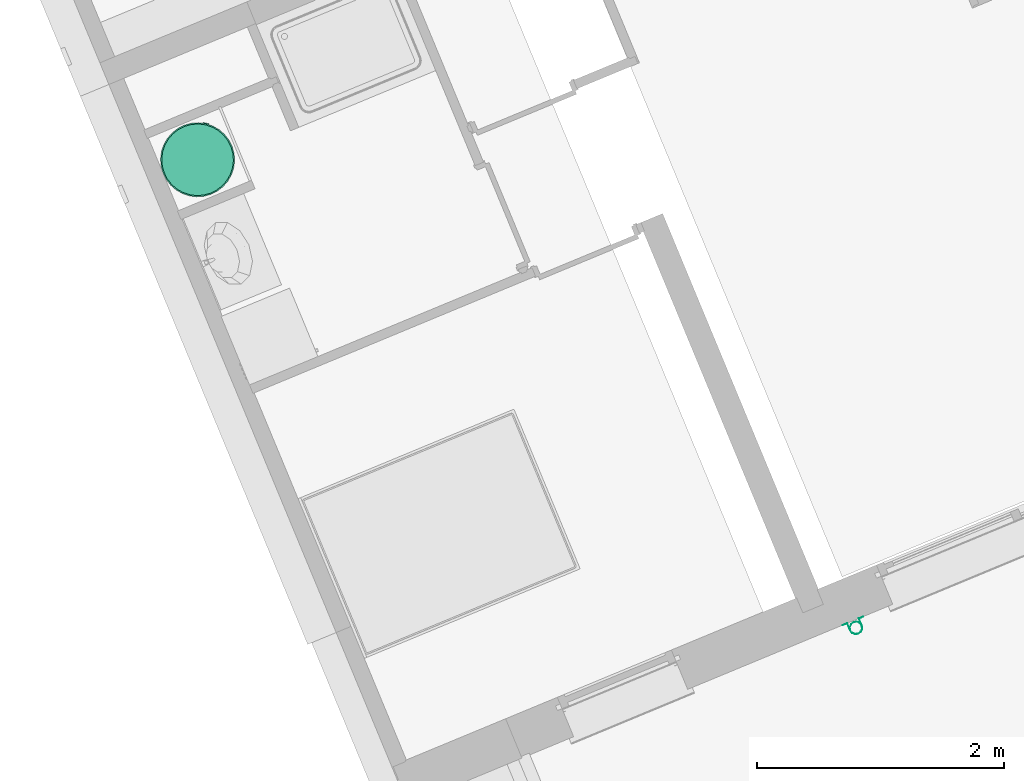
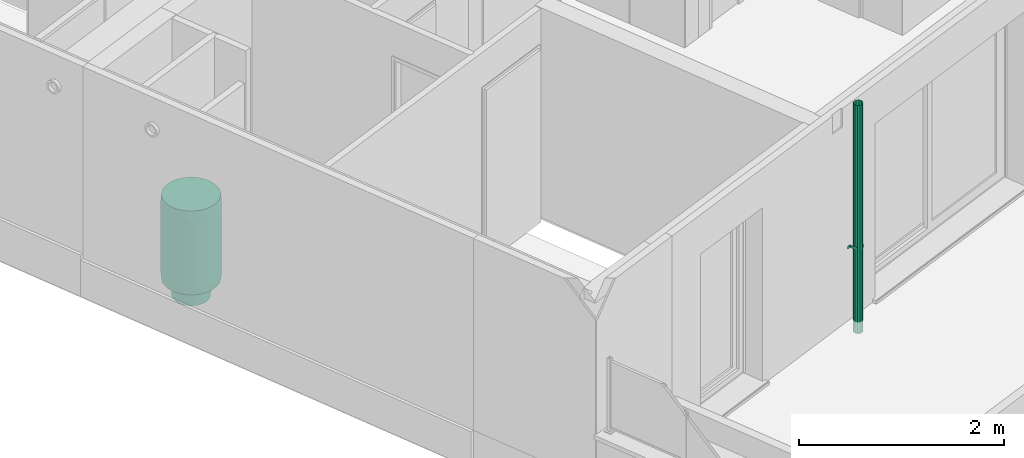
# One storey, part 81 of 119: 1 energy conversion device, 1 flow terminal.
"""IFC2X3 building model written with IfcOpenShell, lengths in metres."""

from ifc_helpers import new_model, entity, si_unit, converted_unit, derived_unit, money_unit, direction, frame, origin_with_axes, place, context, subcontext, project, spatial, open_shell, faceted_brep, surface_model, source, transform, mapped, type_object, element, save


model = new_model("IFC2X3")

# Units and contexts
model_context = context("Model", 3, precision=1e-05, world=origin_with_axes(), true_north=direction((0.0, 1.0)))
body_context = subcontext(model_context, "Body", "Model", "MODEL_VIEW")
ifc_project = project(units=[si_unit("LENGTHUNIT", "METRE"), si_unit("AREAUNIT", "SQUARE_METRE"), si_unit("VOLUMEUNIT", "CUBIC_METRE"), converted_unit("PLANEANGLEUNIT", "DEGREE", entity("IfcPlaneAngleMeasure", 0.0174532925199), si_unit("PLANEANGLEUNIT", "RADIAN"), dimensions=[0, 0, 0, 0, 0, 0, 0]), si_unit("SOLIDANGLEUNIT", "STERADIAN"), money_unit("EUR"), converted_unit("TIMEUNIT", "Year", entity("IfcTimeMeasure", 31556926.0), si_unit("TIMEUNIT", "SECOND"), dimensions=[0, 0, 1, 0, 0, 0, 0]), si_unit("MASSUNIT", "GRAM", prefix="KILO"), si_unit("THERMODYNAMICTEMPERATUREUNIT", "DEGREE_CELSIUS"), si_unit("LUMINOUSINTENSITYUNIT", "LUMEN"), si_unit("ENERGYUNIT", "JOULE", prefix="MEGA"), derived_unit("THERMALCONDUCTANCEUNIT", [(si_unit("POWERUNIT", "WATT"), 1), (si_unit("LENGTHUNIT", "METRE"), -1), (si_unit("THERMODYNAMICTEMPERATUREUNIT", "KELVIN"), -1)]), derived_unit("SPECIFICHEATCAPACITYUNIT", [(si_unit("ENERGYUNIT", "JOULE"), 1), (si_unit("MASSUNIT", "GRAM", prefix="KILO"), -1), (si_unit("THERMODYNAMICTEMPERATUREUNIT", "KELVIN"), -1)]), derived_unit("MASSDENSITYUNIT", [(si_unit("MASSUNIT", "GRAM", prefix="KILO"), 1), (si_unit("VOLUMEUNIT", "CUBIC_METRE"), -1)])], contexts=[model_context])

# Site, building, storey
site_placement = place(None, origin_with_axes())
site = spatial("IfcSite", under=ifc_project, at=site_placement, Name="Site", CompositionType="ELEMENT")
building_placement = place(site_placement, origin_with_axes())
building = spatial("IfcBuilding", under=site, at=building_placement, Name="Bâtiment", CompositionType="ELEMENT")
storey_placement = place(building_placement, origin_with_axes())
storey = spatial("IfcBuildingStorey", under=building, at=storey_placement, Name="Rez-de-chaussée", CompositionType="ELEMENT", Elevation=0.0)

# Flow terminal
waste_terminal_type = type_object("IfcWasteTerminalType", Name="Tuyau descente 23", PredefinedType="GULLYTRAP")
shared_shape_1 = source(origin_with_axes(), body_context, "Body", "SurfaceModel", [
    surface_model("IfcShellBasedSurfaceModel", [(0.05, -0.0125, 2.7222918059), (0.0433012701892, -0.0375, 2.7222918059), (0.0433012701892, -0.0375, 0.0), (0.05, -0.0125, 0.0), (0.025, -0.0558012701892, 2.7222918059), (0.025, -0.0558012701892, 0.0), (0.0433012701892, 0.0125, 2.7222918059), (0.0433012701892, 0.0125, 0.0), (0.0, -0.0625, 2.7222918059), (0.0, -0.0625, 0.0), (0.025, 0.0308012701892, 2.7222918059), (0.025, 0.0308012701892, 0.0), (-0.025, -0.0558012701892, 2.7222918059), (-0.025, -0.0558012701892, 0.0), (0.0, 0.0375, 2.7222918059), (0.0, 0.0375, 0.0), (-0.0433012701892, -0.0375, 2.7222918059), (-0.0433012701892, -0.0375, 0.0), (-0.025, 0.0308012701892, 2.7222918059), (-0.025, 0.0308012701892, 0.0), (-0.05, -0.0125, 2.7222918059), (-0.05, -0.0125, 0.0), (-0.0433012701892, 0.0125, 2.7222918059), (-0.0433012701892, 0.0125, 0.0)], [open_shell([[[0, 1, 2, 3]], [[1, 4, 5, 2]], [[6, 0, 3, 7]], [[4, 8, 9, 5]], [[10, 6, 7, 11]], [[8, 12, 13, 9]], [[14, 10, 11, 15]], [[12, 16, 17, 13]], [[18, 14, 15, 19]], [[16, 20, 21, 17]], [[22, 18, 19, 23]], [[20, 22, 23, 21]]])]),
    faceted_brep([(-0.09, 0.0479, 1.0), (-0.052, 0.0479, 1.0), (-0.052, 0.0479, 1.03), (-0.09, 0.0479, 1.03), (-0.09, 0.0499, 1.0), (-0.0502, 0.0499, 1.0), (-0.0502, -0.0126, 1.0), (-0.04347447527, -0.0377, 1.0), (-0.0251, -0.05607447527, 1.0), (0.0, -0.0628, 1.0), (0.0251, -0.05607447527, 1.0), (0.04347447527, -0.0377, 1.0), (0.0502, -0.0126, 1.0), (0.0502, 0.0499, 1.0), (0.09, 0.0499, 1.0), (0.09, 0.0479, 1.0), (0.052, 0.0479, 1.0), (0.052, -0.0126, 1.0), (0.0450333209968, -0.0386, 1.0), (0.026, -0.0576333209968, 1.0), (0.0, -0.0646, 1.0), (-0.026, -0.0576333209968, 1.0), (-0.0450333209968, -0.0386, 1.0), (-0.052, -0.0126, 1.0), (-0.052, -0.0126, 1.03), (-0.0450333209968, -0.0386, 1.03), (-0.026, -0.0576333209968, 1.03), (0.0, -0.0646, 1.03), (0.026, -0.0576333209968, 1.03), (0.0450333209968, -0.0386, 1.03), (0.052, -0.0126, 1.03), (0.052, 0.0479, 1.03), (0.09, 0.0479, 1.03), (0.09, 0.0499, 1.03), (0.0502, 0.0499, 1.03), (0.0502, -0.0126, 1.03), (0.04347447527, -0.0377, 1.03), (0.0251, -0.05607447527, 1.03), (0.0, -0.0628, 1.03), (-0.0251, -0.05607447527, 1.03), (-0.04347447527, -0.0377, 1.03), (-0.0502, -0.0126, 1.03), (-0.0502, 0.0499, 1.03), (-0.09, 0.0499, 1.03)], [[[0, 1, 2, 3]], [[0, 4, 5, 6, 7, 8, 9, 10, 11, 12, 13, 14, 15, 16, 17, 18, 19, 20, 21, 22, 23, 1]], [[1, 23, 24, 2]], [[3, 2, 24, 25, 26, 27, 28, 29, 30, 31, 32, 33, 34, 35, 36, 37, 38, 39, 40, 41, 42, 43]], [[4, 0, 3, 43]], [[5, 4, 43, 42]], [[6, 5, 42, 41]], [[7, 6, 41, 40]], [[8, 7, 40, 39]], [[9, 8, 39, 38]], [[10, 9, 38, 37]], [[11, 10, 37, 36]], [[12, 11, 36, 35]], [[13, 12, 35, 34]], [[14, 13, 34, 33]], [[15, 14, 33, 32]], [[16, 15, 32, 31]], [[17, 16, 31, 30]], [[18, 17, 30, 29]], [[19, 18, 29, 28]], [[20, 19, 28, 27]], [[21, 20, 27, 26]], [[22, 21, 26, 25]], [[23, 22, 25, 24]]]),
])
flow_terminal_placement = place(storey_placement, frame((-27.1595703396, -27.0593437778, 0.0), z_axis=(0.0, 0.0, 1.0), x_axis=(0.923701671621, 0.383112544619, 0.0)))
element("IfcFlowTerminal", 1, at=flow_terminal_placement, inside=storey, type_object=waste_terminal_type, Name="MOB-006", context=body_context, shape_type="MappedRepresentation", body=[
    mapped(shared_shape_1, transform((0.0, 0.0, 0.0))),
])

# Energy conversion device
heat_exchanger_type = type_object("IfcHeatExchangerType", Name="Chauffe-eau électrique 23", PredefinedType="SHELLANDTUBE")
shared_shape_2 = source(origin_with_axes(), body_context, "Body", "SurfaceModel", [
    surface_model("IfcShellBasedSurfaceModel", [(-0.245, -0.0135, 0.2), (-0.245, -0.0135, 0.18), (-0.241505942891, -0.0130399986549, 0.18), (-0.241505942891, -0.0130399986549, 0.2), (-0.248494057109, -0.0130399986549, 0.2), (-0.248494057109, -0.0130399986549, 0.18), (-0.23825, -0.0116913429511, 0.18), (-0.23825, -0.0116913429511, 0.2), (-0.25175, -0.0116913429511, 0.2), (-0.25175, -0.0116913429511, 0.18), (-0.235454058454, -0.00954594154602, 0.18), (-0.235454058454, -0.00954594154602, 0.2), (-0.254545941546, -0.00954594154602, 0.2), (-0.254545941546, -0.00954594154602, 0.18), (-0.233308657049, -0.00675, 0.18), (-0.233308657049, -0.00675, 0.2), (-0.256691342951, -0.00675, 0.2), (-0.256691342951, -0.00675, 0.18), (-0.231960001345, -0.00349405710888, 0.18), (-0.231960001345, -0.00349405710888, 0.2), (-0.258039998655, -0.00349405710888, 0.2), (-0.258039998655, -0.00349405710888, 0.18), (-0.2315, 0.0, 0.18), (-0.2315, 0.0, 0.2), (-0.2585, 0.0, 0.2), (-0.2585, 0.0, 0.18), (-0.231960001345, 0.00349405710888, 0.18), (-0.231960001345, 0.00349405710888, 0.2), (-0.258039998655, 0.00349405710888, 0.2), (-0.258039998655, 0.00349405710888, 0.18), (-0.233308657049, 0.00675, 0.18), (-0.233308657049, 0.00675, 0.2), (-0.256691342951, 0.00675, 0.2), (-0.256691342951, 0.00675, 0.18), (-0.235454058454, 0.00954594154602, 0.18), (-0.235454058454, 0.00954594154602, 0.2), (-0.254545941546, 0.00954594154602, 0.2), (-0.254545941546, 0.00954594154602, 0.18), (-0.23825, 0.0116913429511, 0.18), (-0.23825, 0.0116913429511, 0.2), (-0.25175, 0.0116913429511, 0.2), (-0.25175, 0.0116913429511, 0.18), (-0.241505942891, 0.0130399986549, 0.18), (-0.241505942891, 0.0130399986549, 0.2), (-0.248494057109, 0.0130399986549, 0.2), (-0.248494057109, 0.0130399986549, 0.18), (-0.245, 0.0135, 0.18), (-0.245, 0.0135, 0.2)], [open_shell([[[0, 1, 2, 3]], [[4, 5, 1, 0]], [[3, 2, 6, 7]], [[8, 9, 5, 4]], [[7, 6, 10, 11]], [[12, 13, 9, 8]], [[11, 10, 14, 15]], [[16, 17, 13, 12]], [[15, 14, 18, 19]], [[20, 21, 17, 16]], [[19, 18, 22, 23]], [[24, 25, 21, 20]], [[23, 22, 26, 27]], [[28, 29, 25, 24]], [[27, 26, 30, 31]], [[32, 33, 29, 28]], [[31, 30, 34, 35]], [[36, 37, 33, 32]], [[35, 34, 38, 39]], [[40, 41, 37, 36]], [[39, 38, 42, 43]], [[44, 45, 41, 40]], [[43, 42, 46, 47]], [[47, 46, 45, 44]]])]),
    surface_model("IfcShellBasedSurfaceModel", [(0.245, -0.0135, 0.2), (0.245, -0.0135, 0.18), (0.248494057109, -0.0130399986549, 0.18), (0.248494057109, -0.0130399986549, 0.2), (0.241505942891, -0.0130399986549, 0.2), (0.241505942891, -0.0130399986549, 0.18), (0.25175, -0.0116913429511, 0.18), (0.25175, -0.0116913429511, 0.2), (0.23825, -0.0116913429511, 0.2), (0.23825, -0.0116913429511, 0.18), (0.254545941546, -0.00954594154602, 0.18), (0.254545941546, -0.00954594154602, 0.2), (0.235454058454, -0.00954594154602, 0.2), (0.235454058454, -0.00954594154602, 0.18), (0.256691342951, -0.00675, 0.18), (0.256691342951, -0.00675, 0.2), (0.233308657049, -0.00675, 0.2), (0.233308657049, -0.00675, 0.18), (0.258039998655, -0.00349405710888, 0.18), (0.258039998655, -0.00349405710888, 0.2), (0.231960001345, -0.00349405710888, 0.2), (0.231960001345, -0.00349405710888, 0.18), (0.2585, 0.0, 0.18), (0.2585, 0.0, 0.2), (0.2315, 0.0, 0.2), (0.2315, 0.0, 0.18), (0.258039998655, 0.00349405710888, 0.18), (0.258039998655, 0.00349405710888, 0.2), (0.231960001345, 0.00349405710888, 0.2), (0.231960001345, 0.00349405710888, 0.18), (0.256691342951, 0.00675, 0.18), (0.256691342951, 0.00675, 0.2), (0.233308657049, 0.00675, 0.2), (0.233308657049, 0.00675, 0.18), (0.254545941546, 0.00954594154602, 0.18), (0.254545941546, 0.00954594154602, 0.2), (0.235454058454, 0.00954594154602, 0.2), (0.235454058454, 0.00954594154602, 0.18), (0.25175, 0.0116913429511, 0.18), (0.25175, 0.0116913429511, 0.2), (0.23825, 0.0116913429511, 0.2), (0.23825, 0.0116913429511, 0.18), (0.248494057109, 0.0130399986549, 0.18), (0.248494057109, 0.0130399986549, 0.2), (0.241505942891, 0.0130399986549, 0.2), (0.241505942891, 0.0130399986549, 0.18), (0.245, 0.0135, 0.18), (0.245, 0.0135, 0.2)], [open_shell([[[0, 1, 2, 3]], [[4, 5, 1, 0]], [[3, 2, 6, 7]], [[8, 9, 5, 4]], [[7, 6, 10, 11]], [[12, 13, 9, 8]], [[11, 10, 14, 15]], [[16, 17, 13, 12]], [[15, 14, 18, 19]], [[20, 21, 17, 16]], [[19, 18, 22, 23]], [[24, 25, 21, 20]], [[23, 22, 26, 27]], [[28, 29, 25, 24]], [[27, 26, 30, 31]], [[32, 33, 29, 28]], [[31, 30, 34, 35]], [[36, 37, 33, 32]], [[35, 34, 38, 39]], [[40, 41, 37, 36]], [[39, 38, 42, 43]], [[44, 45, 41, 40]], [[43, 42, 46, 47]], [[47, 46, 45, 44]]])]),
    faceted_brep([(-0.025, -0.305, 0.4), (-0.025, -0.3, 0.4), (0.025, -0.3, 0.4), (0.025, -0.305, 0.4), (-0.025, -0.305, 0.42), (-0.025, -0.3, 0.42), (0.025, -0.3, 0.42), (0.025, -0.305, 0.42)], [[[0, 1, 2, 3]], [[0, 4, 5, 1]], [[1, 5, 6, 2]], [[2, 6, 7, 3]], [[3, 7, 4, 0]], [[7, 6, 5, 4]]]),
    faceted_brep([(0.0222836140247, -0.16, 0.088519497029), (0.02, -0.16, 0.1), (0.0222836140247, -0.16, 0.111480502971), (0.0287867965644, -0.16, 0.121213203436), (0.038519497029, -0.16, 0.127716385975), (0.05, -0.16, 0.13), (0.061480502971, -0.16, 0.127716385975), (0.0712132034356, -0.16, 0.121213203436), (0.0777163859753, -0.16, 0.111480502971), (0.08, -0.16, 0.1), (0.0777163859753, -0.16, 0.088519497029), (0.0712132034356, -0.16, 0.0787867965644), (0.061480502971, -0.16, 0.0722836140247), (0.05, -0.16, 0.07), (0.038519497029, -0.16, 0.0722836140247), (0.0287867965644, -0.16, 0.0787867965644), (0.0222836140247, -0.175, 0.088519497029), (0.02, -0.175, 0.1), (0.0222836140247, -0.175, 0.111480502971), (0.0287867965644, -0.175, 0.121213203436), (0.038519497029, -0.175, 0.127716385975), (0.05, -0.175, 0.13), (0.061480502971, -0.175, 0.127716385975), (0.0712132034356, -0.175, 0.121213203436), (0.0777163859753, -0.175, 0.111480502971), (0.08, -0.175, 0.1), (0.0777163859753, -0.175, 0.088519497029), (0.0712132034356, -0.175, 0.0787867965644), (0.061480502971, -0.175, 0.0722836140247), (0.05, -0.175, 0.07), (0.038519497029, -0.175, 0.0722836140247), (0.0287867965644, -0.175, 0.0787867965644)], [[[0, 1, 2, 3, 4, 5, 6, 7, 8, 9, 10, 11, 12, 13, 14, 15]], [[0, 16, 17, 1]], [[1, 17, 18, 2]], [[2, 18, 19, 3]], [[3, 19, 20, 4]], [[4, 20, 21, 5]], [[5, 21, 22, 6]], [[6, 22, 23, 7]], [[7, 23, 24, 8]], [[8, 24, 25, 9]], [[9, 25, 26, 10]], [[10, 26, 27, 11]], [[11, 27, 28, 12]], [[12, 28, 29, 13]], [[13, 29, 30, 14]], [[14, 30, 31, 15]], [[15, 31, 16, 0]], [[16, 31, 30, 29, 28, 27, 26, 25, 24, 23, 22, 21, 20, 19, 18, 17]]]),
    faceted_brep([(-0.0777163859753, -0.16, 0.088519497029), (-0.08, -0.16, 0.1), (-0.0777163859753, -0.16, 0.111480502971), (-0.0712132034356, -0.16, 0.121213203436), (-0.061480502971, -0.16, 0.127716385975), (-0.05, -0.16, 0.13), (-0.038519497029, -0.16, 0.127716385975), (-0.0287867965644, -0.16, 0.121213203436), (-0.0222836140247, -0.16, 0.111480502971), (-0.02, -0.16, 0.1), (-0.0222836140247, -0.16, 0.088519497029), (-0.0287867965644, -0.16, 0.0787867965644), (-0.038519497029, -0.16, 0.0722836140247), (-0.05, -0.16, 0.07), (-0.061480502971, -0.16, 0.0722836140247), (-0.0712132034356, -0.16, 0.0787867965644), (-0.0777163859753, -0.175, 0.088519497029), (-0.08, -0.175, 0.1), (-0.0777163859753, -0.175, 0.111480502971), (-0.0712132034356, -0.175, 0.121213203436), (-0.061480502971, -0.175, 0.127716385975), (-0.05, -0.175, 0.13), (-0.038519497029, -0.175, 0.127716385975), (-0.0287867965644, -0.175, 0.121213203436), (-0.0222836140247, -0.175, 0.111480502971), (-0.02, -0.175, 0.1), (-0.0222836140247, -0.175, 0.088519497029), (-0.0287867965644, -0.175, 0.0787867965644), (-0.038519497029, -0.175, 0.0722836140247), (-0.05, -0.175, 0.07), (-0.061480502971, -0.175, 0.0722836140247), (-0.0712132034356, -0.175, 0.0787867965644)], [[[0, 1, 2, 3, 4, 5, 6, 7, 8, 9, 10, 11, 12, 13, 14, 15]], [[0, 16, 17, 1]], [[1, 17, 18, 2]], [[2, 18, 19, 3]], [[3, 19, 20, 4]], [[4, 20, 21, 5]], [[5, 21, 22, 6]], [[6, 22, 23, 7]], [[7, 23, 24, 8]], [[8, 24, 25, 9]], [[9, 25, 26, 10]], [[10, 26, 27, 11]], [[11, 27, 28, 12]], [[12, 28, 29, 13]], [[13, 29, 30, 14]], [[14, 30, 31, 15]], [[15, 31, 16, 0]], [[16, 31, 30, 29, 28, 27, 26, 25, 24, 23, 22, 21, 20, 19, 18, 17]]]),
    faceted_brep([(-0.186349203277, -0.0370671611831, 0.0), (-0.196157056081, -0.0390180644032, 0.2), (-0.2, 0.0, 0.2), (-0.19, 0.0, 0.0), (-0.175537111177, -0.0727098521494, 0.0), (-0.184775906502, -0.076536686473, 0.2), (-0.166293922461, -0.111114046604, 0.2), (-0.141421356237, -0.141421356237, 0.2), (-0.118783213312, -0.16, 0.2), (0.118783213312, -0.16, 0.2), (0.141421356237, -0.141421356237, 0.2), (0.166293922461, -0.111114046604, 0.2), (0.184775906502, -0.076536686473, 0.2), (0.196157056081, -0.0390180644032, 0.2), (0.2, 0.0, 0.2), (0.196157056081, 0.0390180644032, 0.2), (0.184775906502, 0.076536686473, 0.2), (0.166293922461, 0.111114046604, 0.2), (0.141421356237, 0.141421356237, 0.2), (0.111114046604, 0.166293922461, 0.2), (0.076536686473, 0.184775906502, 0.2), (0.0390180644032, 0.196157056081, 0.2), (0.0, 0.2, 0.2), (-0.0390180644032, 0.196157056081, 0.2), (-0.076536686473, 0.184775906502, 0.2), (-0.111114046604, 0.166293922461, 0.2), (-0.141421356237, 0.141421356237, 0.2), (-0.166293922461, 0.111114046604, 0.2), (-0.184775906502, 0.076536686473, 0.2), (-0.196157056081, 0.0390180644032, 0.2), (-0.186349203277, 0.0370671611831, 0.0), (-0.175537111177, 0.0727098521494, 0.0), (-0.157979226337, 0.105558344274, 0.0), (-0.134350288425, 0.134350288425, 0.0), (-0.105558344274, 0.157979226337, 0.0), (-0.0727098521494, 0.175537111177, 0.0), (-0.0370671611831, 0.186349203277, 0.0), (0.0, 0.19, 0.0), (0.0370671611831, 0.186349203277, 0.0), (0.0727098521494, 0.175537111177, 0.0), (0.105558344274, 0.157979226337, 0.0), (0.134350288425, 0.134350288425, 0.0), (0.157979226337, 0.105558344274, 0.0), (0.175537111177, 0.0727098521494, 0.0), (0.186349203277, 0.0370671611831, 0.0), (0.19, 0.0, 0.0), (0.186349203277, -0.0370671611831, 0.0), (0.175537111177, -0.0727098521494, 0.0), (0.157979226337, -0.105558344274, 0.0), (0.134350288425, -0.134350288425, 0.0), (0.105558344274, -0.157979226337, 0.0), (0.101777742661, -0.16, 0.0), (-0.101777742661, -0.16, 0.0), (-0.105558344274, -0.157979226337, 0.0), (-0.134350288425, -0.134350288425, 0.0), (-0.157979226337, -0.105558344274, 0.0), (-0.106908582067, -0.16, 0.0486072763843), (0.106908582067, -0.16, 0.0486072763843)], [[[0, 1, 2, 3]], [[4, 5, 1, 0]], [[1, 5, 6, 7, 8, 9, 10, 11, 12, 13, 14, 15, 16, 17, 18, 19, 20, 21, 22, 23, 24, 25, 26, 27, 28, 29, 2]], [[3, 2, 29, 30]], [[0, 3, 30, 31, 32, 33, 34, 35, 36, 37, 38, 39, 40, 41, 42, 43, 44, 45, 46, 47, 48, 49, 50, 51, 52, 53, 54, 55, 4]], [[55, 6, 5, 4]], [[54, 7, 6, 55]], [[53, 56, 8, 7, 54]], [[51, 57, 9, 8, 56, 52]], [[49, 10, 9, 57, 50]], [[48, 11, 10, 49]], [[47, 12, 11, 48]], [[46, 13, 12, 47]], [[45, 14, 13, 46]], [[44, 15, 14, 45]], [[43, 16, 15, 44]], [[42, 17, 16, 43]], [[41, 18, 17, 42]], [[40, 19, 18, 41]], [[39, 20, 19, 40]], [[38, 21, 20, 39]], [[37, 22, 21, 38]], [[36, 23, 22, 37]], [[35, 24, 23, 36]], [[34, 25, 24, 35]], [[33, 26, 25, 34]], [[32, 27, 26, 33]], [[31, 28, 27, 32]], [[30, 29, 28, 31]], [[50, 57, 51]], [[52, 56, 53]]]),
    faceted_brep([(-0.284427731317, -0.0565761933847, 0.2), (-0.294235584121, -0.0585270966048, 0.3), (-0.3, 0.0, 0.3), (-0.29, 0.0, 0.2), (-0.267925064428, -0.110978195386, 0.2), (-0.277163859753, -0.11480502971, 0.3), (-0.249440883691, -0.166671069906, 0.3), (-0.212132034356, -0.212132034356, 0.3), (-0.166671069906, -0.249440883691, 0.3), (-0.11480502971, -0.277163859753, 0.3), (-0.0585270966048, -0.294235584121, 0.3), (0.0, -0.3, 0.3), (0.0585270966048, -0.294235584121, 0.3), (0.11480502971, -0.277163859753, 0.3), (0.166671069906, -0.249440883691, 0.3), (0.212132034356, -0.212132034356, 0.3), (0.249440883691, -0.166671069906, 0.3), (0.277163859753, -0.11480502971, 0.3), (0.294235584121, -0.0585270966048, 0.3), (0.3, 0.0, 0.3), (0.294235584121, 0.0585270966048, 0.3), (0.277163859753, 0.11480502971, 0.3), (0.249440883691, 0.166671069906, 0.3), (0.212132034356, 0.212132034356, 0.3), (0.166671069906, 0.249440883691, 0.3), (0.11480502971, 0.277163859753, 0.3), (0.0585270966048, 0.294235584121, 0.3), (0.0, 0.3, 0.3), (-0.0585270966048, 0.294235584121, 0.3), (-0.11480502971, 0.277163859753, 0.3), (-0.166671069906, 0.249440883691, 0.3), (-0.212132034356, 0.212132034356, 0.3), (-0.249440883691, 0.166671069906, 0.3), (-0.277163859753, 0.11480502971, 0.3), (-0.294235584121, 0.0585270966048, 0.3), (-0.284427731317, 0.0565761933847, 0.2), (-0.267925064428, 0.110978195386, 0.2), (-0.241126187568, 0.161115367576, 0.2), (-0.205060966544, 0.205060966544, 0.2), (-0.161115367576, 0.241126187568, 0.2), (-0.110978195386, 0.267925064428, 0.2), (-0.0565761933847, 0.284427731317, 0.2), (0.0, 0.29, 0.2), (0.0565761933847, 0.284427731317, 0.2), (0.110978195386, 0.267925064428, 0.2), (0.161115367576, 0.241126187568, 0.2), (0.205060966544, 0.205060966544, 0.2), (0.241126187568, 0.161115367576, 0.2), (0.267925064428, 0.110978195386, 0.2), (0.284427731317, 0.0565761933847, 0.2), (0.29, 0.0, 0.2), (0.284427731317, -0.0565761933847, 0.2), (0.267925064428, -0.110978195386, 0.2), (0.241126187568, -0.161115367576, 0.2), (0.205060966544, -0.205060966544, 0.2), (0.161115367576, -0.241126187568, 0.2), (0.110978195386, -0.267925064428, 0.2), (0.0565761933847, -0.284427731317, 0.2), (0.0, -0.29, 0.2), (-0.0565761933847, -0.284427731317, 0.2), (-0.110978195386, -0.267925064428, 0.2), (-0.161115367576, -0.241126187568, 0.2), (-0.205060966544, -0.205060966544, 0.2), (-0.241126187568, -0.161115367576, 0.2)], [[[0, 1, 2, 3]], [[4, 5, 1, 0]], [[1, 5, 6, 7, 8, 9, 10, 11, 12, 13, 14, 15, 16, 17, 18, 19, 20, 21, 22, 23, 24, 25, 26, 27, 28, 29, 30, 31, 32, 33, 34, 2]], [[3, 2, 34, 35]], [[0, 3, 35, 36, 37, 38, 39, 40, 41, 42, 43, 44, 45, 46, 47, 48, 49, 50, 51, 52, 53, 54, 55, 56, 57, 58, 59, 60, 61, 62, 63, 4]], [[63, 6, 5, 4]], [[62, 7, 6, 63]], [[61, 8, 7, 62]], [[60, 9, 8, 61]], [[59, 10, 9, 60]], [[58, 11, 10, 59]], [[57, 12, 11, 58]], [[56, 13, 12, 57]], [[55, 14, 13, 56]], [[54, 15, 14, 55]], [[53, 16, 15, 54]], [[52, 17, 16, 53]], [[51, 18, 17, 52]], [[50, 19, 18, 51]], [[49, 20, 19, 50]], [[48, 21, 20, 49]], [[47, 22, 21, 48]], [[46, 23, 22, 47]], [[45, 24, 23, 46]], [[44, 25, 24, 45]], [[43, 26, 25, 44]], [[42, 27, 26, 43]], [[41, 28, 27, 42]], [[40, 29, 28, 41]], [[39, 30, 29, 40]], [[38, 31, 30, 39]], [[37, 32, 31, 38]], [[36, 33, 32, 37]], [[35, 34, 33, 36]]]),
    faceted_brep([(-0.294235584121, -0.0585270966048, 0.3), (-0.3, 0.0, 0.3), (-0.294235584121, 0.0585270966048, 0.3), (-0.277163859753, 0.11480502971, 0.3), (-0.249440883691, 0.166671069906, 0.3), (-0.212132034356, 0.212132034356, 0.3), (-0.166671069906, 0.249440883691, 0.3), (-0.11480502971, 0.277163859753, 0.3), (-0.0585270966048, 0.294235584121, 0.3), (0.0, 0.3, 0.3), (0.0585270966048, 0.294235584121, 0.3), (0.11480502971, 0.277163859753, 0.3), (0.166671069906, 0.249440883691, 0.3), (0.212132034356, 0.212132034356, 0.3), (0.249440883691, 0.166671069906, 0.3), (0.277163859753, 0.11480502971, 0.3), (0.294235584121, 0.0585270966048, 0.3), (0.3, 0.0, 0.3), (0.294235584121, -0.0585270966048, 0.3), (0.277163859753, -0.11480502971, 0.3), (0.249440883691, -0.166671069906, 0.3), (0.212132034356, -0.212132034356, 0.3), (0.166671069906, -0.249440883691, 0.3), (0.11480502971, -0.277163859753, 0.3), (0.0585270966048, -0.294235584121, 0.3), (0.0, -0.3, 0.3), (-0.0585270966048, -0.294235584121, 0.3), (-0.11480502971, -0.277163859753, 0.3), (-0.166671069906, -0.249440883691, 0.3), (-0.212132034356, -0.212132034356, 0.3), (-0.249440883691, -0.166671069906, 0.3), (-0.277163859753, -0.11480502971, 0.3), (-0.294235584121, -0.0585270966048, 1.1), (-0.3, 0.0, 1.1), (-0.294235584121, 0.0585270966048, 1.1), (-0.277163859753, 0.11480502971, 1.1), (-0.249440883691, 0.166671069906, 1.1), (-0.212132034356, 0.212132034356, 1.1), (-0.166671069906, 0.249440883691, 1.1), (-0.11480502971, 0.277163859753, 1.1), (-0.0585270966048, 0.294235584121, 1.1), (0.0, 0.3, 1.1), (0.0585270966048, 0.294235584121, 1.1), (0.11480502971, 0.277163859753, 1.1), (0.166671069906, 0.249440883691, 1.1), (0.212132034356, 0.212132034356, 1.1), (0.249440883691, 0.166671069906, 1.1), (0.277163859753, 0.11480502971, 1.1), (0.294235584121, 0.0585270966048, 1.1), (0.3, 0.0, 1.1), (0.294235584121, -0.0585270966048, 1.1), (0.277163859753, -0.11480502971, 1.1), (0.249440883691, -0.166671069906, 1.1), (0.212132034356, -0.212132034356, 1.1), (0.166671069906, -0.249440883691, 1.1), (0.11480502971, -0.277163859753, 1.1), (0.0585270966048, -0.294235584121, 1.1), (0.0, -0.3, 1.1), (-0.0585270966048, -0.294235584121, 1.1), (-0.11480502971, -0.277163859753, 1.1), (-0.166671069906, -0.249440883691, 1.1), (-0.212132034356, -0.212132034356, 1.1), (-0.249440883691, -0.166671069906, 1.1), (-0.277163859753, -0.11480502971, 1.1)], [[[0, 1, 2, 3, 4, 5, 6, 7, 8, 9, 10, 11, 12, 13, 14, 15, 16, 17, 18, 19, 20, 21, 22, 23, 24, 25, 26, 27, 28, 29, 30, 31]], [[0, 32, 33, 1]], [[1, 33, 34, 2]], [[2, 34, 35, 3]], [[3, 35, 36, 4]], [[4, 36, 37, 5]], [[5, 37, 38, 6]], [[6, 38, 39, 7]], [[7, 39, 40, 8]], [[8, 40, 41, 9]], [[9, 41, 42, 10]], [[10, 42, 43, 11]], [[11, 43, 44, 12]], [[12, 44, 45, 13]], [[13, 45, 46, 14]], [[14, 46, 47, 15]], [[15, 47, 48, 16]], [[16, 48, 49, 17]], [[17, 49, 50, 18]], [[18, 50, 51, 19]], [[19, 51, 52, 20]], [[20, 52, 53, 21]], [[21, 53, 54, 22]], [[22, 54, 55, 23]], [[23, 55, 56, 24]], [[24, 56, 57, 25]], [[25, 57, 58, 26]], [[26, 58, 59, 27]], [[27, 59, 60, 28]], [[28, 60, 61, 29]], [[29, 61, 62, 30]], [[30, 62, 63, 31]], [[31, 63, 32, 0]], [[32, 63, 62, 61, 60, 59, 58, 57, 56, 55, 54, 53, 52, 51, 50, 49, 48, 47, 46, 45, 44, 43, 42, 41, 40, 39, 38, 37, 36, 35, 34, 33]]]),
    faceted_brep([(-0.294235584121, -0.0585270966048, 1.1), (-0.284427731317, -0.0565761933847, 1.2), (-0.29, 0.0, 1.2), (-0.3, 0.0, 1.1), (-0.277163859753, -0.11480502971, 1.1), (-0.267925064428, -0.110978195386, 1.2), (-0.241126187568, -0.161115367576, 1.2), (-0.205060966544, -0.205060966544, 1.2), (-0.161115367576, -0.241126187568, 1.2), (-0.110978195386, -0.267925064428, 1.2), (-0.0565761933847, -0.284427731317, 1.2), (0.0, -0.29, 1.2), (0.0565761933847, -0.284427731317, 1.2), (0.110978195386, -0.267925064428, 1.2), (0.161115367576, -0.241126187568, 1.2), (0.205060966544, -0.205060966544, 1.2), (0.241126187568, -0.161115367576, 1.2), (0.267925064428, -0.110978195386, 1.2), (0.284427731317, -0.0565761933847, 1.2), (0.29, 0.0, 1.2), (0.284427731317, 0.0565761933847, 1.2), (0.267925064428, 0.110978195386, 1.2), (0.241126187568, 0.161115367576, 1.2), (0.205060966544, 0.205060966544, 1.2), (0.161115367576, 0.241126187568, 1.2), (0.110978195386, 0.267925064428, 1.2), (0.0565761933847, 0.284427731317, 1.2), (0.0, 0.29, 1.2), (-0.0565761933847, 0.284427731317, 1.2), (-0.110978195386, 0.267925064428, 1.2), (-0.161115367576, 0.241126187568, 1.2), (-0.205060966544, 0.205060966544, 1.2), (-0.241126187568, 0.161115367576, 1.2), (-0.267925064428, 0.110978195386, 1.2), (-0.284427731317, 0.0565761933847, 1.2), (-0.294235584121, 0.0585270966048, 1.1), (-0.277163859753, 0.11480502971, 1.1), (-0.249440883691, 0.166671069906, 1.1), (-0.212132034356, 0.212132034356, 1.1), (-0.166671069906, 0.249440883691, 1.1), (-0.11480502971, 0.277163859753, 1.1), (-0.0585270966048, 0.294235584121, 1.1), (0.0, 0.3, 1.1), (0.0585270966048, 0.294235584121, 1.1), (0.11480502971, 0.277163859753, 1.1), (0.166671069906, 0.249440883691, 1.1), (0.212132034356, 0.212132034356, 1.1), (0.249440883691, 0.166671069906, 1.1), (0.277163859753, 0.11480502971, 1.1), (0.294235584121, 0.0585270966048, 1.1), (0.3, 0.0, 1.1), (0.294235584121, -0.0585270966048, 1.1), (0.277163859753, -0.11480502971, 1.1), (0.249440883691, -0.166671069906, 1.1), (0.212132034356, -0.212132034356, 1.1), (0.166671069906, -0.249440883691, 1.1), (0.11480502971, -0.277163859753, 1.1), (0.0585270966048, -0.294235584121, 1.1), (0.0, -0.3, 1.1), (-0.0585270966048, -0.294235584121, 1.1), (-0.11480502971, -0.277163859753, 1.1), (-0.166671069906, -0.249440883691, 1.1), (-0.212132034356, -0.212132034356, 1.1), (-0.249440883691, -0.166671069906, 1.1)], [[[0, 1, 2, 3]], [[4, 5, 1, 0]], [[1, 5, 6, 7, 8, 9, 10, 11, 12, 13, 14, 15, 16, 17, 18, 19, 20, 21, 22, 23, 24, 25, 26, 27, 28, 29, 30, 31, 32, 33, 34, 2]], [[3, 2, 34, 35]], [[0, 3, 35, 36, 37, 38, 39, 40, 41, 42, 43, 44, 45, 46, 47, 48, 49, 50, 51, 52, 53, 54, 55, 56, 57, 58, 59, 60, 61, 62, 63, 4]], [[63, 6, 5, 4]], [[62, 7, 6, 63]], [[61, 8, 7, 62]], [[60, 9, 8, 61]], [[59, 10, 9, 60]], [[58, 11, 10, 59]], [[57, 12, 11, 58]], [[56, 13, 12, 57]], [[55, 14, 13, 56]], [[54, 15, 14, 55]], [[53, 16, 15, 54]], [[52, 17, 16, 53]], [[51, 18, 17, 52]], [[50, 19, 18, 51]], [[49, 20, 19, 50]], [[48, 21, 20, 49]], [[47, 22, 21, 48]], [[46, 23, 22, 47]], [[45, 24, 23, 46]], [[44, 25, 24, 45]], [[43, 26, 25, 44]], [[42, 27, 26, 43]], [[41, 28, 27, 42]], [[40, 29, 28, 41]], [[39, 30, 29, 40]], [[38, 31, 30, 39]], [[37, 32, 31, 38]], [[36, 33, 32, 37]], [[35, 34, 33, 36]]]),
])
energy_conversion_device_placement = place(storey_placement, frame((-32.4866743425, -23.2799863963, 0.0), z_axis=(0.0, 0.0, 1.0), x_axis=(-0.97438734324, 0.224876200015, 0.0)))
element("IfcEnergyConversionDevice", 2, at=energy_conversion_device_placement, inside=storey, type_object=heat_exchanger_type, Name="MOB-002", context=body_context, shape_type="MappedRepresentation", body=[
    mapped(shared_shape_2, transform((0.0, 0.0, 0.0))),
])

save(model, "model.ifc")
